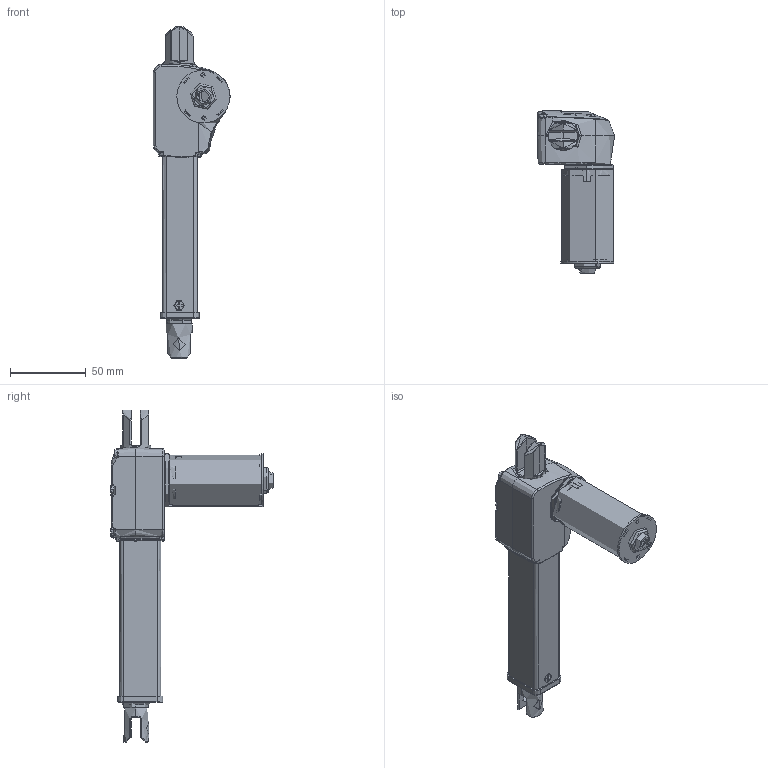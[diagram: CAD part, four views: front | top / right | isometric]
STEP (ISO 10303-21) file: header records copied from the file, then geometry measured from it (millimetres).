
FILE_DESCRIPTION (( 'STEP AP203' ), '1' );
FILE_NAME ('3D_TA42.STEP', '2019-04-12T10:00:04', ( '' ), ( '' ), 'SwSTEP 2.0', 'SolidWorks 2015', '' );
FILE_SCHEMA (( 'CONFIG_CONTROL_DESIGN' ));
Length unit declared in the file: millimetre
Products named in the file (30): 上端接頭-A; 三維零件圖-33903-021-自攻螺絲-0; 三維零件圖-32109-3201-內管-0; 下端接頭; 3225馬達-2019-2-19; TA42-ID-A-上蓋; M3-10-螺絲; 三維零件圖-32209-7301-外管-0; TA42-ID-A-下蓋-; M4-0.7-小沉頭十字螺釘; 三維零件圖-33112-021-防水防擺環-A; 3D_TA42
Assembly tree (27 placements, depth 2):
  三維零件圖-32109-3201-內管-0
  下端接頭
  TA42-ID-A-上蓋
  TA42-ID-A-下蓋-
  3D_TA42
    3225馬達-2019-2-19
    三維零件圖-32209-7301-外管-0
    三維零件圖-33112-021-防水防擺環-A
    上端接頭-A
    三維零件圖-32109-3201-內管-0
    TA42-ID-A-上蓋
    TA42-ID-A-下蓋-
    三維零件圖-33903-021-自攻螺絲-0  x6
    下端接頭
    M3-10-螺絲  x2
    M4-0.7-小沉頭十字螺釘
Bounding box: 50.99 x 107.46 x 219.2 mm (x, y, z)
Volume: 86060.8 mm3; surface area: 105727.5 mm2
Topology: 20 solids, 20 shells, 3016 faces, 8137 edges, 5125 vertices
Faces by surface type: cylinder 1340, plane 862, bspline 312, torus 289, cone 163, sphere 50
Entity records: 114785 total; most frequent: CARTESIAN_POINT 52204, ORIENTED_EDGE 13070, DIRECTION 11970, EDGE_CURVE 6535, AXIS2_PLACEMENT_3D 4520, VERTEX_POINT 4090, VECTOR 2930, LINE 2930
